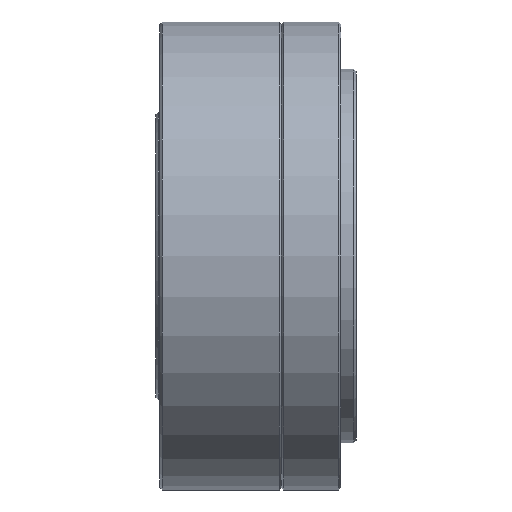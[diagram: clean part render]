
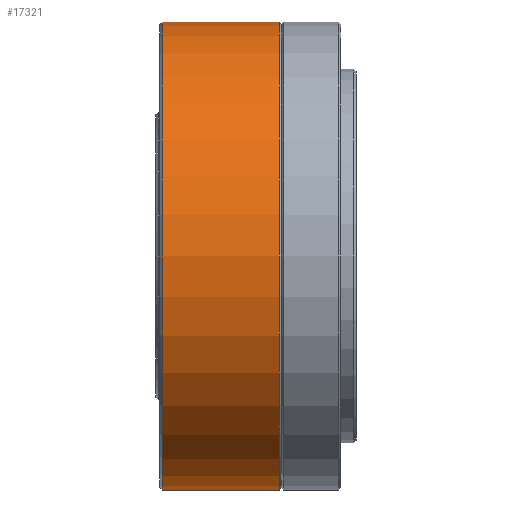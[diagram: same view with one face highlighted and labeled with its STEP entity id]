
A CAD part, front view. The second image highlights one B-rep face of the part: STEP entity #17321.
In plain terms, the highlighted cylindrical face has radius 31 mm (diameter 62 mm), a partial arc.
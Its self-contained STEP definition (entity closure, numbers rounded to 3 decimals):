
#186 = DIRECTION ( 'NONE',  ( -1., 0., 0. ) ) ;
#377 = VERTEX_POINT ( 'NONE', #17863 ) ;
#931 = ORIENTED_EDGE ( 'NONE', *, *, #9874, .T. ) ;
#1753 = ORIENTED_EDGE ( 'NONE', *, *, #4531, .T. ) ;
#2021 = VECTOR ( 'NONE', #21720, 1000. ) ;
#2800 = AXIS2_PLACEMENT_3D ( 'NONE', #6774, #8559, #17303 ) ;
#4008 = CARTESIAN_POINT ( 'NONE',  ( -0.3, 0., 0. ) ) ;
#4133 = EDGE_LOOP ( 'NONE', ( #20387, #14939, #931, #1753 ) ) ;
#4531 = EDGE_CURVE ( 'NONE', #15346, #12390, #19762, .T. ) ;
#4799 = FACE_OUTER_BOUND ( 'NONE', #4133, .T. ) ;
#5769 = DIRECTION ( 'NONE',  ( 0., 0., 1. ) ) ;
#5793 = CARTESIAN_POINT ( 'NONE',  ( -15.8, 0., 31. ) ) ;
#6774 = CARTESIAN_POINT ( 'NONE',  ( -18.733, 0., 0. ) ) ;
#6977 = LINE ( 'NONE', #12481, #11637 ) ;
#7217 = LINE ( 'NONE', #12924, #2021 ) ;
#8559 = DIRECTION ( 'NONE',  ( -1., 0., 0. ) ) ;
#8962 = CYLINDRICAL_SURFACE ( 'NONE', #2800, 31. ) ;
#9161 = CARTESIAN_POINT ( 'NONE',  ( -15.8, 0., 0. ) ) ;
#9874 = EDGE_CURVE ( 'NONE', #377, #15346, #6977, .T. ) ;
#9951 = EDGE_CURVE ( 'NONE', #11229, #377, #10021, .T. ) ;
#10021 = CIRCLE ( 'NONE', #16898, 31. ) ;
#10530 = EDGE_CURVE ( 'NONE', #11229, #12390, #7217, .T. ) ;
#10908 = DIRECTION ( 'NONE',  ( 0., 0., -1. ) ) ;
#11229 = VERTEX_POINT ( 'NONE', #18527 ) ;
#11637 = VECTOR ( 'NONE', #186, 1000. ) ;
#12390 = VERTEX_POINT ( 'NONE', #20432 ) ;
#12481 = CARTESIAN_POINT ( 'NONE',  ( -18.733, 0., 31. ) ) ;
#12924 = CARTESIAN_POINT ( 'NONE',  ( -18.733, 0., -31. ) ) ;
#14939 = ORIENTED_EDGE ( 'NONE', *, *, #9951, .T. ) ;
#15346 = VERTEX_POINT ( 'NONE', #5793 ) ;
#16314 = DIRECTION ( 'NONE',  ( -1., 0., 0. ) ) ;
#16898 = AXIS2_PLACEMENT_3D ( 'NONE', #4008, #16314, #5769 ) ;
#17303 = DIRECTION ( 'NONE',  ( 0., 0., 1. ) ) ;
#17321 = ADVANCED_FACE ( 'NONE', ( #4799 ), #8962, .T. ) ;
#17863 = CARTESIAN_POINT ( 'NONE',  ( -0.3, 0., 31. ) ) ;
#18527 = CARTESIAN_POINT ( 'NONE',  ( -0.3, 0., -31. ) ) ;
#19762 = CIRCLE ( 'NONE', #22580, 31. ) ;
#20387 = ORIENTED_EDGE ( 'NONE', *, *, #10530, .F. ) ;
#20432 = CARTESIAN_POINT ( 'NONE',  ( -15.8, 0., -31. ) ) ;
#21482 = DIRECTION ( 'NONE',  ( 1., 0., 0. ) ) ;
#21720 = DIRECTION ( 'NONE',  ( -1., 0., 0. ) ) ;
#22580 = AXIS2_PLACEMENT_3D ( 'NONE', #9161, #21482, #10908 ) ;
